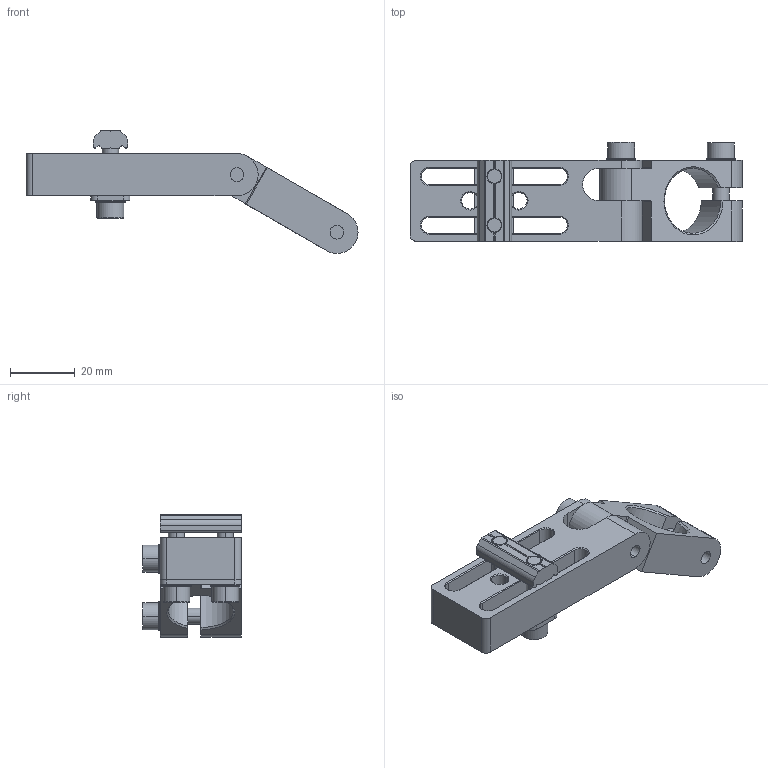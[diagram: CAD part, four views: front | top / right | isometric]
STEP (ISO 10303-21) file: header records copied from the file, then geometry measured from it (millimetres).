
FILE_DESCRIPTION (( 'STEP AP214' ), '1' );
FILE_NAME ('SMBE3-2040.STEP', '2019-11-05T07:48:04', ( '微软用户' ), ( '微软中国' ), 'SwSTEP 2.0', 'SolidWorks 2016', '' );
FILE_SCHEMA (( 'AUTOMOTIVE_DESIGN' ));
Length unit declared in the file: millimetre
Products named in the file (8): PTS-M5; PTN-M5P15; PTD-M5P15; PTC-M5L22; PTC-M5L20; SMBE3-2040-2; SMBE3-2040-1; SMBE3-2040
Assembly tree (12 placements, depth 2):
  SMBE3-2040
    SMBE3-2040-1
    SMBE3-2040-2
    PTC-M5L20  x2
    PTC-M5L22  x2
    PTD-M5P15
    PTN-M5P15
    PTS-M5  x4
Bounding box: 102.24 x 30.45 x 37.8 mm (x, y, z)
Volume: 25610.6 mm3; surface area: 16741.8 mm2
Topology: 12 solids, 12 shells, 892 faces, 2559 edges, 1687 vertices
Faces by surface type: plane 743, cylinder 94, cone 55
Entity records: 12090 total; most frequent: CARTESIAN_POINT 2223, DIRECTION 2062, ORIENTED_EDGE 1998, EDGE_CURVE 999, AXIS2_PLACEMENT_3D 722, VERTEX_POINT 651, VECTOR 618, LINE 618
